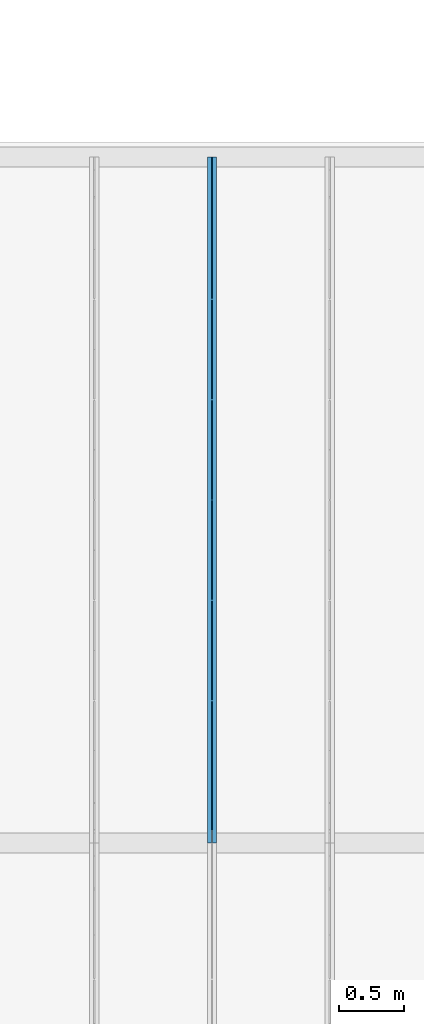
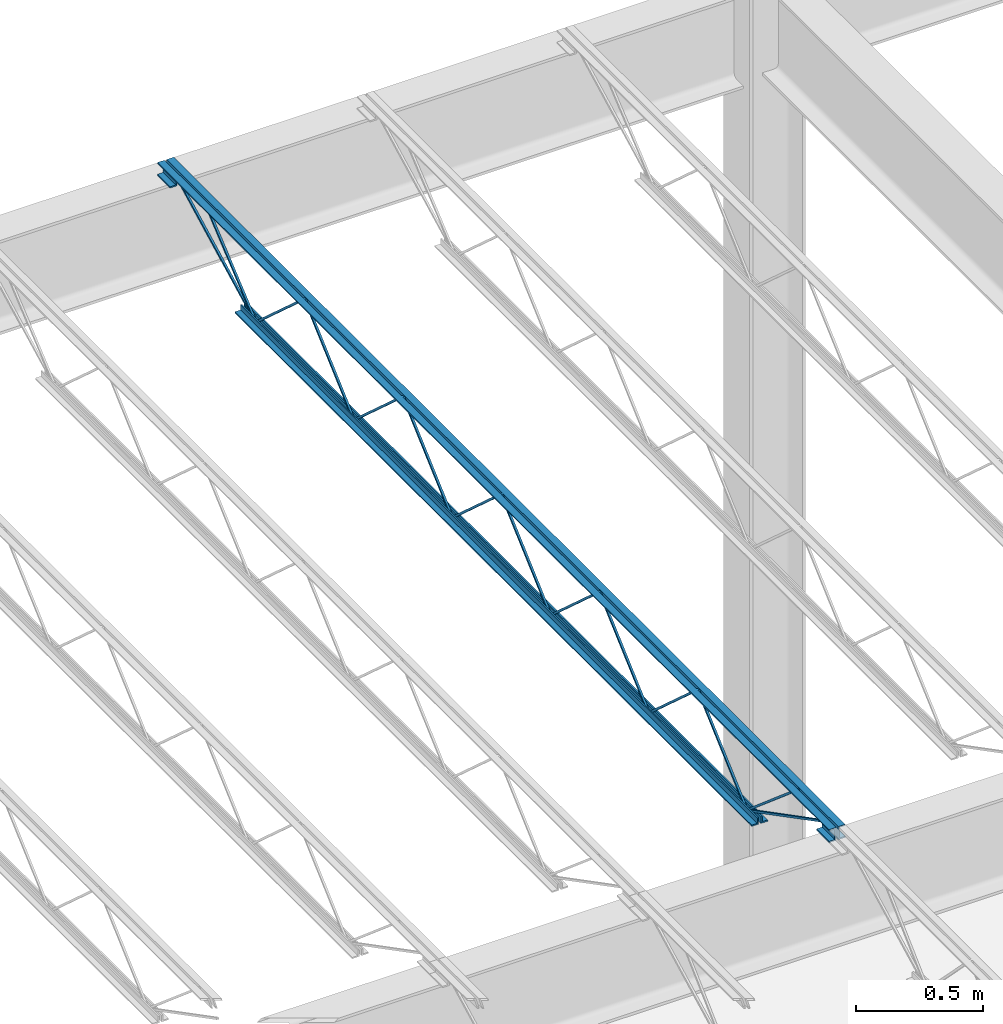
# One storey, part 98 of 119: 1 beam.
"""IFC2X3 building model written with IfcOpenShell, lengths in metres."""

import ifcopenshell
import ifcopenshell.guid

model = None  # the IFC model being written
_history = None  # IfcOwnerHistory: only IFC2X3 demands one
_inside = {}  # id of a spatial element -> (the spatial element, [elements in it])
_under = {}  # id of a project, library or spatial element -> (it, [spatial elements below it])
_declared = {}  # id of a project -> (the project, [libraries it declares])
_typed = {}  # id of a type object -> (the type object, [elements of that type])
_made_of = {}  # id of a material, layer set ... -> (it, [elements and type objects made of it])


def new_model(schema):
    """Start an empty IFC model of exactly this schema.

    Asked for "IFC4X3", IfcOpenShell would pick the latest addendum, in which some entities
    have other attributes; the version numbers below select the first issue.
    IFC2X3 requires an IfcOwnerHistory on every rooted entity: one is made here for all.
    """
    global model, _history
    if schema == "IFC4X3":
        model = ifcopenshell.file(schema_version=(4, 3, 0, 0))
    else:
        model = ifcopenshell.file(schema=schema)
    _inside.clear()
    _under.clear()
    _declared.clear()
    _typed.clear()
    _made_of.clear()
    _history = None
    if model.schema == "IFC2X3":
        org = make("IfcOrganization", Name="unknown")
        user = make(
            "IfcPersonAndOrganization",
            ThePerson=make("IfcPerson", FamilyName="unknown"),
            TheOrganization=org,
        )
        app = make(
            "IfcApplication",
            ApplicationDeveloper=org,
            Version="unknown",
            ApplicationFullName="unknown",
            ApplicationIdentifier="unknown",
        )
        _history = make(
            "IfcOwnerHistory",
            OwningUser=user,
            OwningApplication=app,
            ChangeAction="ADDED",
            CreationDate=0,
        )
    return model


def make(cls, **values):
    """One entity of the class cls with the attributes given. An attribute that is None is left unset."""
    return model.create_entity(
        cls, **{name: value for name, value in values.items() if value is not None}
    )


def entity(cls, *values):
    """Any entity or typed value of the class cls, its attributes in the order of the schema. None: left unset."""
    e = model.create_entity(cls)
    for i, value in enumerate(values):
        if value is not None:
            e[i] = value
    return e


def rooted(cls, **values):
    """An entity with a GlobalId (a new one), such as an element, a storey or a relation."""
    return make(cls, GlobalId=ifcopenshell.guid.new(), OwnerHistory=_history, **values)


def si_unit(unit_type, name, prefix=None):
    """IfcSIUnit, for example si_unit("LENGTHUNIT", "METRE", prefix="MILLI")."""
    return make("IfcSIUnit", UnitType=unit_type, Prefix=prefix, Name=name)


def converted_unit(unit_type, name, factor, base, dimensions=None, offset=None):
    """IfcConversionBasedUnit, such as the inch: factor (a typed value) times the base unit."""
    return make(
        "IfcConversionBasedUnit"
        if offset is None
        else "IfcConversionBasedUnitWithOffset",
        ConversionOffset=offset,
        Dimensions=None
        if dimensions is None
        else entity("IfcDimensionalExponents", *dimensions),
        UnitType=unit_type,
        Name=name,
        ConversionFactor=make(
            "IfcMeasureWithUnit", ValueComponent=factor, UnitComponent=base
        ),
    )


def assignment(units):
    """IfcUnitAssignment: the units of a project."""
    return None if units is None else make("IfcUnitAssignment", Units=units)


def point(xyz):
    """IfcCartesianPoint."""
    return None if xyz is None else make("IfcCartesianPoint", Coordinates=xyz)


def direction(xyz):
    """IfcDirection."""
    return None if xyz is None else make("IfcDirection", DirectionRatios=xyz)


def frame(location, z_axis=None, x_axis=None):
    """IfcAxis2Placement3D, a coordinate frame: its origin and axes. An axis left out is left unset."""
    return make(
        "IfcAxis2Placement3D",
        Location=point(location),
        Axis=direction(z_axis),
        RefDirection=direction(x_axis),
    )


def origin():
    """The frame at (0, 0, 0) with its axes left unset."""
    return frame((0.0, 0.0, 0.0))


def place(relative_to, where):
    """IfcLocalPlacement: puts the frame where relative to a parent placement (None: the world)."""
    return make(
        "IfcLocalPlacement", PlacementRelTo=relative_to, RelativePlacement=where
    )


def context(
    kind, dimensions, precision=None, world=None, true_north=None, identifier=None
):
    """IfcGeometricRepresentationContext, for example the 3D "Model" context."""
    return make(
        "IfcGeometricRepresentationContext",
        ContextIdentifier=identifier,
        ContextType=kind,
        CoordinateSpaceDimension=dimensions,
        Precision=precision,
        WorldCoordinateSystem=world,
        TrueNorth=true_north,
    )


def project(units=None, contexts=None):
    """IfcProject with its units and contexts."""
    return rooted(
        "IfcProject",
        Name="project",
        RepresentationContexts=contexts,
        UnitsInContext=assignment(units),
    )


def spatial(cls, under=None, at=None, **own):
    """A site, building, storey or space (cls), placed at a placement, below another one or the project."""
    s = rooted(cls, ObjectPlacement=at, **own)
    if under is not None:
        _under.setdefault(under.id(), (under, []))[1].append(s)
    return s


def faces_of(points, faces, orient=None, outer=None):
    """IfcFace entities. A face is a list of loops; a loop is a list of indices into points, from 0.

    orient and outer hold one flag for each loop. By default every Orientation is true, the
    first loop of a face is its IfcFaceOuterBound and the others are IfcFaceBound.
    """
    made = []
    for i, loops in enumerate(faces):
        bounds = []
        for j, loop in enumerate(loops):
            is_outer = j == 0 if outer is None else outer[i][j]
            bounds.append(
                make(
                    "IfcFaceOuterBound" if is_outer else "IfcFaceBound",
                    Bound=make("IfcPolyLoop", Polygon=[points[k] for k in loop]),
                    Orientation=True if orient is None else orient[i][j],
                )
            )
        made.append(make("IfcFace", Bounds=bounds))
    return made


def face_set(faces, orient=None, outer=None):
    """The faces of one IfcConnectedFaceSet. surface_model builds it on its shared points."""
    return ("IfcConnectedFaceSet", faces, orient, outer)


def surface_model(cls, points, shells):
    """IfcFaceBasedSurfaceModel or IfcShellBasedSurfaceModel (cls): surfaces that need not close."""
    shared = [point(p) for p in points]
    made = [make(c, CfsFaces=faces_of(shared, fs, o, b)) for c, fs, o, b in shells]
    if cls == "IfcFaceBasedSurfaceModel":
        return make(cls, FbsmFaces=made)
    return make(cls, SbsmBoundary=made)


def shape(context_of_items, identifier, shape_type, items):
    """IfcShapeRepresentation: the items that make up one representation, for example the "Body"."""
    return make(
        "IfcShapeRepresentation",
        ContextOfItems=context_of_items,
        RepresentationIdentifier=identifier,
        RepresentationType=shape_type,
        Items=items,
    )


def made_of(thing, what):
    """Note that an element or type object is made of a material, layer set ...; save() writes the relation."""
    if what is not None:
        _made_of.setdefault(what.id(), (what, []))[1].append(thing)
    return thing


def element(
    cls,
    number,
    at=None,
    inside=None,
    cuts=None,
    type_object=None,
    material=None,
    context=None,
    identifier="Body",
    shape_type=None,
    held_by="IfcProductDefinitionShape",
    body=None,
    shapes=None,
    **own,
):
    """One element of the class cls, such as IfcWall. Its Tag is "e" and its number.

    at: its placement. inside: the storey or other place that contains it. cuts: it is an
    opening in that element (IfcRelVoidsElement). A single representation is given by context,
    identifier, shape_type and body (its items); several are given by shapes. held_by: the class
    of the entity that holds the representations. save() writes the other relations.
    """
    e = rooted(cls, Tag="e%d" % number, ObjectPlacement=at, **own)
    if body is not None:
        shapes = [shape(context, identifier, shape_type, body)]
    if shapes is not None:
        e.Representation = make(held_by, Representations=shapes)
    if inside is not None:
        _inside.setdefault(inside.id(), (inside, []))[1].append(e)
    if cuts is not None:
        rooted(
            "IfcRelVoidsElement", RelatingBuildingElement=cuts, RelatedOpeningElement=e
        )
    if type_object is not None:
        _typed.setdefault(type_object.id(), (type_object, []))[1].append(e)
    return made_of(e, material)


def aggregate(whole, parts):
    """IfcRelAggregates: a whole, such as a stair, and the parts it consists of."""
    return rooted("IfcRelAggregates", RelatingObject=whole, RelatedObjects=parts)


def save(model, path):
    """Write the relations noted so far, then the file.

    IfcRelAggregates (storeys below a building ...), IfcRelContainedInSpatialStructure (elements
    in a storey), IfcRelDefinesByType, IfcRelAssociatesMaterial and IfcRelDeclares: one each for
    every whole, place, type object, material and project.
    """
    for whole, parts in _under.values():
        aggregate(whole, parts)
    for where, things in _inside.values():
        rooted(
            "IfcRelContainedInSpatialStructure",
            RelatedElements=things,
            RelatingStructure=where,
        )
    for kind, things in _typed.values():
        rooted("IfcRelDefinesByType", RelatedObjects=things, RelatingType=kind)
    for what, things in _made_of.values():
        rooted("IfcRelAssociatesMaterial", RelatedObjects=things, RelatingMaterial=what)
    for by, libraries in _declared.values():
        rooted("IfcRelDeclares", RelatingContext=by, RelatedDefinitions=libraries)
    model.write(path)


model = new_model("IFC2X3")

# Units and contexts
model_context = context("Model", 3, precision=1e-09, world=origin())
plan_context = context("Plan", 3, precision=1e-09, world=origin())
ifc_project = project(units=[si_unit("LENGTHUNIT", "METRE"), si_unit("AREAUNIT", "SQUARE_METRE"), si_unit("VOLUMEUNIT", "CUBIC_METRE"), converted_unit("PLANEANGLEUNIT", "DEGREE", entity("IfcRatioMeasure", 0.01745329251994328), si_unit("PLANEANGLEUNIT", "RADIAN"), dimensions=[0, 0, 0, 0, 0, 0, 0]), si_unit("TIMEUNIT", "SECOND")], contexts=[model_context, plan_context])

# Site, building, storey
site_placement = place(None, origin())
site = spatial("IfcSite", under=ifc_project, at=site_placement, Name="Default", CompositionType="ELEMENT")
building_placement = place(site_placement, origin())
building = spatial("IfcBuilding", under=site, at=building_placement, CompositionType="ELEMENT")
storey_placement = place(building_placement, frame((0.0, 0.0, 4.570000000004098)))
storey = spatial("IfcBuildingStorey", under=building, at=storey_placement, Name="Second Floor", CompositionType="ELEMENT", Elevation=4.570000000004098)

# Beam
beam_placement = place(storey_placement, frame((-22.8310357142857, 44.78049999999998, 4.323999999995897), z_axis=(0.0, 0.0, 1.0), x_axis=(-1.0, 0.0, 0.0)))
element("IfcBeam", 1, at=beam_placement, inside=storey, Name="M_K-Series Bar Joist-Rod Web:14K1:14K1", ObjectType="M_K-Series Bar Joist-Rod Web:14K1", context=model_context, shape_type="SurfaceModel", body=[
    surface_model("IfcFaceBasedSurfaceModel", [(-0.0320000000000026, -2.266000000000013, 0.01110000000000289), (-0.04150000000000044, -2.266000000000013, 0.01110000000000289), (-0.04150000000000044, -2.266000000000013, 0.001600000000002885), (-0.0320000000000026, -2.266000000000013, 0.001600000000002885), (-0.04150000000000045, -2.264645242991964, 0.01110000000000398), (-0.0320000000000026, -2.264645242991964, 0.01110000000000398), (-0.04150000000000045, -2.26100475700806, 0.001600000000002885), (-0.04150000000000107, -1.878854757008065, 0.3449000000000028), (-0.04150000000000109, -1.876145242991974, 0.3449000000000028), (-0.0415000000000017, -1.493995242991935, 0.001600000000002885), (-0.04150000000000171, -1.489000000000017, 0.001600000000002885), (-0.04150000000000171, -1.489000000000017, 0.01110000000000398), (-0.04150000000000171, -1.490354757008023, 0.01110000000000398), (-0.04150000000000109, -1.872504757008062, 0.3544000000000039), (-0.04150000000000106, -1.882495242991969, 0.3544000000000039), (-0.03199999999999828, -2.26100475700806, 0.001600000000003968), (-0.03200000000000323, -1.878854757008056, 0.3449000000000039), (-0.03200000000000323, -1.876145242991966, 0.3449000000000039), (-0.03200000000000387, -1.493995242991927, 0.001600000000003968), (-0.03200000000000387, -1.489000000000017, 0.001600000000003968), (-0.03200000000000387, -1.489000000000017, 0.01110000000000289), (-0.03200000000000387, -1.490354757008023, 0.01110000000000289), (-0.03200000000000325, -1.872504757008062, 0.3544000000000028), (-0.03200000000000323, -1.882495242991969, 0.3544000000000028), (-0.03200000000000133, -3.04300000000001, 0.01110000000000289), (-0.04149999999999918, -3.04300000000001, 0.01110000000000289), (-0.04149999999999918, -3.04300000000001, 0.001600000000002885), (-0.03200000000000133, -3.04300000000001, 0.001600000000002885), (-0.04149999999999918, -3.041645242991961, 0.01110000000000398), (-0.03200000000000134, -3.041645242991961, 0.01110000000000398), (-0.04149999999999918, -3.038004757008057, 0.001600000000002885), (-0.0414999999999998, -2.655854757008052, 0.3449000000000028), (-0.04149999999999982, -2.653145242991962, 0.3449000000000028), (-0.04150000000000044, -2.270995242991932, 0.001600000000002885), (-0.04150000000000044, -2.266000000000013, 0.01110000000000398), (-0.04150000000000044, -2.26735475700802, 0.01110000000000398), (-0.04149999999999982, -2.649504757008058, 0.3544000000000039), (-0.0414999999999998, -2.659495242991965, 0.3544000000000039), (-0.03199999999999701, -3.038004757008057, 0.001600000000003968), (-0.03200000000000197, -2.655854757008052, 0.3449000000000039), (-0.03200000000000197, -2.653145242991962, 0.3449000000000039), (-0.0320000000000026, -2.270995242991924, 0.001600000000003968), (-0.0320000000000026, -2.266000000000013, 0.001600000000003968), (-0.0320000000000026, -2.26735475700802, 0.01110000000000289), (-0.03200000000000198, -2.649504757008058, 0.3544000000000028), (-0.03200000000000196, -2.659495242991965, 0.3544000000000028), (-0.03200000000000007, -3.820000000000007, 0.01110000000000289), (-0.04149999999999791, -3.820000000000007, 0.01110000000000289), (-0.04149999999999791, -3.820000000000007, 0.001600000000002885), (-0.03200000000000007, -3.820000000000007, 0.001600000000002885), (-0.04149999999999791, -3.818645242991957, 0.01110000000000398), (-0.03200000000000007, -3.818645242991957, 0.01110000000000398), (-0.04149999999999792, -3.815004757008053, 0.001600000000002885), (-0.04149999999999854, -3.432854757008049, 0.3449000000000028), (-0.04149999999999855, -3.430145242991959, 0.3449000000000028), (-0.04149999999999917, -3.04799524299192, 0.001600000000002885), (-0.04149999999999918, -3.043000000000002, 0.001600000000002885), (-0.04149999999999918, -3.04300000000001, 0.01110000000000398), (-0.04149999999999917, -3.044354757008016, 0.01110000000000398), (-0.04149999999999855, -3.426504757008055, 0.3544000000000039), (-0.04149999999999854, -3.436495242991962, 0.3544000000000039), (-0.03199999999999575, -3.815004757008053, 0.001600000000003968), (-0.0320000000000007, -3.432854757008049, 0.3449000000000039), (-0.0320000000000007, -3.430145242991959, 0.3449000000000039), (-0.03200000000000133, -3.04799524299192, 0.001600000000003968), (-0.03200000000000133, -3.04300000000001, 0.001600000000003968), (-0.03200000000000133, -3.043000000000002, 0.01110000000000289), (-0.03200000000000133, -3.044354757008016, 0.01110000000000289), (-0.03200000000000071, -3.426504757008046, 0.3544000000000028), (-0.0320000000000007, -3.436495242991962, 0.3544000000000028), (-0.0320000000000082, -1.489000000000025, 0.01109999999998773), (-0.04150000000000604, -1.489000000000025, 0.01109999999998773), (-0.04150000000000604, -1.489000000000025, 0.001599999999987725), (-0.0320000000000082, -1.489000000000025, 0.001599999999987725), (-0.04150000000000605, -1.487645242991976, 0.01109999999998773), (-0.0320000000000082, -1.487645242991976, 0.01109999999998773), (-0.04150000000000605, -1.484004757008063, 0.001599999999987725), (-0.04150000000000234, -1.101854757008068, 0.3448999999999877), (-0.04150000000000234, -1.099145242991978, 0.3448999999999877), (-0.04150000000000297, -0.7169952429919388, 0.001599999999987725), (-0.04150000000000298, -0.7120000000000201, 0.001599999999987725), (-0.04150000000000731, -0.7120000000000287, 0.01109999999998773), (-0.04150000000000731, -0.7133547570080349, 0.01109999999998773), (-0.04150000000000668, -1.095504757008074, 0.3543999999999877), (-0.04150000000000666, -1.10549524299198, 0.3543999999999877), (-0.03200000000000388, -1.484004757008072, 0.001599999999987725), (-0.03200000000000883, -1.101854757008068, 0.3448999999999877), (-0.03200000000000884, -1.099145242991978, 0.3448999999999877), (-0.03200000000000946, -0.7169952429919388, 0.001599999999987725), (-0.03200000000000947, -0.7120000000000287, 0.001599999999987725), (-0.03200000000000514, -0.7120000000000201, 0.01109999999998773), (-0.03200000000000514, -0.7133547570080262, 0.01109999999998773), (-0.03200000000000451, -1.095504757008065, 0.3543999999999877), (-0.0320000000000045, -1.105495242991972, 0.3543999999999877), (-0.03200000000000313, -4.597000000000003, 0.01110000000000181), (-0.04150000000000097, -4.597000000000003, 0.01110000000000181), (-0.04150000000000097, -4.597000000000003, 0.001600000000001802), (-0.03200000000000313, -4.597000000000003, 0.001600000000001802), (-0.04150000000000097, -4.595645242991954, 0.01110000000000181), (-0.03200000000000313, -4.595645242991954, 0.01110000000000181), (-0.04150000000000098, -4.592004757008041, 0.001600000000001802), (-0.04150000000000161, -4.209854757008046, 0.3449000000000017), (-0.04150000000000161, -4.207145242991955, 0.3449000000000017), (-0.0414999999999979, -3.824995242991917, 0.001600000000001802), (-0.04149999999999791, -3.819999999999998, 0.001600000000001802), (-0.04150000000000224, -3.820000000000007, 0.01110000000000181), (-0.04150000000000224, -3.821354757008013, 0.01110000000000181), (-0.04150000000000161, -4.203504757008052, 0.3544000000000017), (-0.0415000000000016, -4.213495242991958, 0.3544000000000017), (-0.03199999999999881, -4.592004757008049, 0.001600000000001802), (-0.03200000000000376, -4.209854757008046, 0.3449000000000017), (-0.03200000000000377, -4.207145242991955, 0.3449000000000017), (-0.03200000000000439, -3.824995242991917, 0.001600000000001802), (-0.0320000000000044, -3.820000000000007, 0.001600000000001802), (-0.03200000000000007, -3.819999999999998, 0.01110000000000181), (-0.03200000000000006, -3.821354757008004, 0.01110000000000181), (-0.03200000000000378, -4.203504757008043, 0.3544000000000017), (-0.03200000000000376, -4.213495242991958, 0.3544000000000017), (-0.0414999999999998, 0.0, 0.3559999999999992), (-0.07350000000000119, 0.0, 0.3559999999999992), (-0.07350000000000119, 0.0, 0.3494999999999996), (-0.04799999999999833, 0.0, 0.3494999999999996), (-0.04799999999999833, 0.0, 0.3239999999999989), (-0.0414999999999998, 0.0, 0.3239999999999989), (-0.03200000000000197, 0.0, 0.3559999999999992), (-0.03200000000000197, 0.0, 0.3239999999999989), (-0.02549999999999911, 0.0, 0.3239999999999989), (-0.02549999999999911, 0.0, 0.3494999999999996), (0.0, 0.0, 0.3494999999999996), (0.0, 0.0, 0.3559999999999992), (-0.04149999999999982, -5.309000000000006, 0.3559999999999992), (-0.0735000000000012, -5.309000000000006, 0.3559999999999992), (-0.0735000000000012, -5.309000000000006, 0.3494999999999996), (-0.04799999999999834, -5.309000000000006, 0.3494999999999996), (-0.04799999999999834, -5.309000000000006, 0.3239999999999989), (-0.04149999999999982, -5.309000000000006, 0.3239999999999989), (-0.03200000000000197, -5.309000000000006, 0.3559999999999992), (-0.03200000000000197, -5.309000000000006, 0.3239999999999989), (-0.02549999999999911, -5.309000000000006, 0.3239999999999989), (-0.02549999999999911, -5.309000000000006, 0.3494999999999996), (0.0, -5.309000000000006, 0.3494999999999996), (0.0, -5.309000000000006, 0.3559999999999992), (-0.03200000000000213, -5.20900000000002, 0.2924999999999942), (0.0, -5.20900000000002, 0.2924999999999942), (0.0, -5.20900000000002, 0.2989999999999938), (-0.02550000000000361, -5.20900000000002, 0.2989999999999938), (-0.02550000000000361, -5.20900000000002, 0.3239999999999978), (-0.03200000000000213, -5.20900000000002, 0.3239999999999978), (-0.07350000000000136, -5.20900000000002, 0.2924999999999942), (-0.04149999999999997, -5.20900000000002, 0.2924999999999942), (-0.04149999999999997, -5.20900000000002, 0.3239999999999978), (-0.04800000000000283, -5.20900000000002, 0.3239999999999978), (-0.04800000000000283, -5.20900000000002, 0.2989999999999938), (-0.07350000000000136, -5.20900000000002, 0.2989999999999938), (-0.03200000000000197, -5.309000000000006, 0.2924999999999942), (0.0, -5.309000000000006, 0.2924999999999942), (0.0, -5.309000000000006, 0.2989999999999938), (-0.02550000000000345, -5.309000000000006, 0.2989999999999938), (-0.02550000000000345, -5.309000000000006, 0.3239999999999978), (-0.03200000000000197, -5.309000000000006, 0.3239999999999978), (-0.0735000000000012, -5.309000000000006, 0.2924999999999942), (-0.04149999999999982, -5.309000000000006, 0.2924999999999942), (-0.04149999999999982, -5.309000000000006, 0.3239999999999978), (-0.04800000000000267, -5.309000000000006, 0.3239999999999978), (-0.04800000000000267, -5.309000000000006, 0.2989999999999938), (-0.0735000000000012, -5.309000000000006, 0.2989999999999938), (-0.0414999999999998, 0.0, 0.2924999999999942), (-0.0414999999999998, 0.0, 0.3239999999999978), (-0.04800000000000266, 0.0, 0.3239999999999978), (-0.04800000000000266, 0.0, 0.2989999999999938), (-0.07350000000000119, 0.0, 0.2989999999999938), (-0.07350000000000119, 0.0, 0.2924999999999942), (-0.03200000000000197, 0.0, 0.2924999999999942), (0.0, 0.0, 0.2924999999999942), (0.0, 0.0, 0.2989999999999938), (-0.02550000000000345, 0.0, 0.2989999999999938), (-0.02550000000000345, 0.0, 0.3239999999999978), (-0.03200000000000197, 0.0, 0.3239999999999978), (-0.04149999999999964, -0.1000000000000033, 0.2924999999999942), (-0.04149999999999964, -0.1000000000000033, 0.3239999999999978), (-0.0480000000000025, -0.1000000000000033, 0.3239999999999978), (-0.0480000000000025, -0.1000000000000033, 0.2989999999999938), (-0.07350000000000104, -0.1000000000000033, 0.2989999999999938), (-0.07350000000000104, -0.1000000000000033, 0.2924999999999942), (-0.03200000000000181, -0.1000000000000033, 0.2924999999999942), (0.0, -0.1000000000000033, 0.2924999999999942), (0.0, -0.1000000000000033, 0.2989999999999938), (-0.02550000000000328, -0.1000000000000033, 0.2989999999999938), (-0.02550000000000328, -0.1000000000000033, 0.3239999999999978), (-0.03200000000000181, -0.1000000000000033, 0.3239999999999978), (-0.04149999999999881, -0.6119999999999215, 0.0), (-0.04149999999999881, -0.6119999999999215, 0.03199999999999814), (-0.04799999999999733, -0.6119999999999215, 0.03199999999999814), (-0.04799999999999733, -0.6119999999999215, 0.006499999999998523), (-0.07350000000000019, -0.6119999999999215, 0.006499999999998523), (-0.07350000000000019, -0.6119999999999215, 0.0), (-0.03200000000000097, -0.6119999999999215, 0.0), (0.0, -0.6119999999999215, 0.0), (0.0, -0.6119999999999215, 0.006499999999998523), (-0.02549999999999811, -0.6119999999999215, 0.006499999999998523), (-0.02549999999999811, -0.6119999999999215, 0.03199999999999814), (-0.03200000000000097, -0.6119999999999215, 0.03199999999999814), (-0.04150000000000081, -4.696999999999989, 0.0), (-0.04150000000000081, -4.696999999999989, 0.03199999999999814), (-0.04799999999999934, -4.696999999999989, 0.03199999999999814), (-0.04799999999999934, -4.696999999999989, 0.006499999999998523), (-0.0735000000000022, -4.696999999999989, 0.006499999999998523), (-0.0735000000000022, -4.696999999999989, 0.0), (-0.03200000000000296, -4.696999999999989, 0.0), (0.0, -4.696999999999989, 0.0), (0.0, -4.696999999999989, 0.006499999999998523), (-0.02550000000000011, -4.696999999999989, 0.006499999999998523), (-0.02550000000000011, -4.696999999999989, 0.03199999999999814), (-0.03200000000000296, -4.696999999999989, 0.03199999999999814), (-0.03200000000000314, -4.594811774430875, 0.01056594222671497), (-0.04150000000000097, -4.594811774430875, 0.01056594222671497), (-0.04150000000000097, -4.599188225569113, 0.00213405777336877), (-0.03200000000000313, -4.599188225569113, 0.00213405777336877), (-0.03200000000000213, -5.207840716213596, 0.3287499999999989), (-0.03200000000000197, -5.308999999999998, 0.3287499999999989), (-0.03200000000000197, -5.308999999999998, 0.3192499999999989), (-0.03200000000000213, -5.210159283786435, 0.3192499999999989), (-0.0415000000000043, -5.210159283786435, 0.3192499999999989), (-0.04149999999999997, -5.207840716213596, 0.3287499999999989), (-0.04149999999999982, -5.308999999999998, 0.3287499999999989), (-0.04149999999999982, -5.309000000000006, 0.3192499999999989), (-0.03200000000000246, -5.005457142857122, 0.3417000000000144), (-0.0415000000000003, -5.005457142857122, 0.3417000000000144), (-0.0415000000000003, -5.005457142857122, 0.3322000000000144), (-0.03200000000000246, -5.005457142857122, 0.3322000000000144), (-0.04150000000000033, -4.991034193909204, 0.3417000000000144), (-0.03200000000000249, -4.991034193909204, 0.3417000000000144), (-0.04150000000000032, -4.994480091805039, 0.3322000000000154), (-0.04150000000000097, -4.600045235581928, 0.002704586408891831), (-0.04150000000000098, -4.593954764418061, 0.009995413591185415), (-0.03199999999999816, -4.994480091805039, 0.3322000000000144), (-0.03200000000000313, -4.600045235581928, 0.002704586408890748), (-0.03200000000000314, -4.593954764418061, 0.009995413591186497), (-0.03200000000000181, -0.09781177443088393, 0.3197840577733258), (-0.03200000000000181, -0.1021882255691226, 0.328215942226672), (-0.04149999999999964, -0.1021882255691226, 0.328215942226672), (-0.04149999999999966, -0.09781177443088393, 0.3197840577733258), (-0.03200000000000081, -0.7098117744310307, 0.002134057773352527), (-0.0320000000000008, -0.7141882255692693, 0.01056594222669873), (-0.04149999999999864, -0.7141882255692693, 0.01056594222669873), (-0.04149999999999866, -0.7098117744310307, 0.002134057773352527), (-0.03200000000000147, -0.3059055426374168, 0.3460340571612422), (-0.03200000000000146, -0.3120658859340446, 0.35326594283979), (-0.04149999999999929, -0.3120658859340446, 0.3532659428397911), (-0.04149999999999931, -0.3059055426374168, 0.3460340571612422), (-0.03200000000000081, -0.7089198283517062, 0.002734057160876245), (-0.0320000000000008, -0.7150801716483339, 0.00996594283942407), (-0.04149999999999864, -0.7150801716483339, 0.00996594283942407), (-0.04149999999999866, -0.7089198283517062, 0.002734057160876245)], [face_set([[[0, 1, 2, 3]], [[1, 4, 5, 0]], [[2, 6, 7, 8, 9, 10, 11, 12, 13, 14, 4, 1]], [[3, 2, 6, 15]], [[0, 3, 15, 16, 17, 18, 19, 20, 21, 22, 23, 5]], [[4, 5, 23, 14]], [[15, 16, 7, 6]], [[14, 13, 22, 23]], [[16, 7, 8, 17]], [[13, 12, 21, 22]], [[17, 8, 9, 18]], [[20, 11, 10, 19]], [[12, 11, 20, 21]], [[18, 9, 10, 19]]]), face_set([[[24, 25, 26, 27]], [[25, 28, 29, 24]], [[26, 30, 31, 32, 33, 2, 34, 35, 36, 37, 28, 25]], [[27, 26, 30, 38]], [[24, 27, 38, 39, 40, 41, 42, 0, 43, 44, 45, 29]], [[28, 29, 45, 37]], [[38, 39, 31, 30]], [[37, 36, 44, 45]], [[39, 31, 32, 40]], [[36, 35, 43, 44]], [[40, 32, 33, 41]], [[0, 34, 2, 42]], [[35, 34, 0, 43]], [[41, 33, 2, 42]]]), face_set([[[46, 47, 48, 49]], [[47, 50, 51, 46]], [[48, 52, 53, 54, 55, 56, 57, 58, 59, 60, 50, 47]], [[49, 48, 52, 61]], [[46, 49, 61, 62, 63, 64, 65, 66, 67, 68, 69, 51]], [[50, 51, 69, 60]], [[61, 62, 53, 52]], [[60, 59, 68, 69]], [[62, 53, 54, 63]], [[59, 58, 67, 68]], [[63, 54, 55, 64]], [[66, 57, 56, 65]], [[58, 57, 66, 67]], [[64, 55, 56, 65]]]), face_set([[[70, 71, 72, 73]], [[71, 74, 75, 70]], [[72, 76, 77, 78, 79, 80, 81, 82, 83, 84, 74, 71]], [[73, 72, 76, 85]], [[70, 73, 85, 86, 87, 88, 89, 90, 91, 92, 93, 75]], [[74, 75, 93, 84]], [[85, 86, 77, 76]], [[84, 83, 92, 93]], [[86, 77, 78, 87]], [[83, 82, 91, 92]], [[87, 78, 79, 88]], [[90, 81, 80, 89]], [[82, 81, 90, 91]], [[88, 79, 80, 89]]]), face_set([[[94, 95, 96, 97]], [[95, 98, 99, 94]], [[96, 100, 101, 102, 103, 104, 105, 106, 107, 108, 98, 95]], [[97, 96, 100, 109]], [[94, 97, 109, 110, 111, 112, 113, 114, 115, 116, 117, 99]], [[98, 99, 117, 108]], [[109, 110, 101, 100]], [[108, 107, 116, 117]], [[110, 101, 102, 111]], [[107, 106, 115, 116]], [[111, 102, 103, 112]], [[114, 105, 104, 113]], [[106, 105, 114, 115]], [[112, 103, 104, 113]]]), face_set([[[118, 119, 120, 121, 122, 123]], [[124, 125, 126, 127, 128, 129]], [[130, 131, 132, 133, 134, 135]], [[136, 137, 138, 139, 140, 141]], [[123, 118, 130, 135]], [[122, 123, 135, 134]], [[121, 133, 134, 122]], [[120, 121, 133, 132]], [[119, 131, 132, 120]], [[118, 130, 131, 119]], [[129, 141, 136, 124]], [[128, 129, 141, 140]], [[127, 128, 140, 139]], [[126, 127, 139, 138]], [[125, 126, 138, 137]], [[124, 136, 137, 125]]]), face_set([[[142, 143, 144, 145, 146, 147]], [[148, 149, 150, 151, 152, 153]], [[154, 155, 156, 157, 158, 159]], [[160, 161, 162, 163, 164, 165]], [[147, 159, 154, 142]], [[146, 158, 159, 147]], [[145, 146, 158, 157]], [[144, 156, 157, 145]], [[143, 144, 156, 155]], [[142, 143, 155, 154]], [[153, 165, 160, 148]], [[152, 164, 165, 153]], [[151, 163, 164, 152]], [[150, 162, 163, 151]], [[149, 150, 162, 161]], [[148, 149, 161, 160]]]), face_set([[[166, 167, 168, 169, 170, 171]], [[172, 173, 174, 175, 176, 177]], [[178, 179, 180, 181, 182, 183]], [[184, 185, 186, 187, 188, 189]], [[171, 166, 178, 183]], [[170, 182, 183, 171]], [[169, 181, 182, 170]], [[168, 180, 181, 169]], [[167, 179, 180, 168]], [[166, 167, 179, 178]], [[177, 189, 184, 172]], [[176, 188, 189, 177]], [[175, 176, 188, 187]], [[174, 186, 187, 175]], [[173, 174, 186, 185]], [[172, 173, 185, 184]]]), face_set([[[190, 191, 192, 193, 194, 195]], [[196, 197, 198, 199, 200, 201]], [[202, 203, 204, 205, 206, 207]], [[208, 209, 210, 211, 212, 213]], [[195, 190, 202, 207]], [[194, 206, 207, 195]], [[193, 205, 206, 194]], [[192, 204, 205, 193]], [[191, 203, 204, 192]], [[190, 191, 203, 202]], [[201, 213, 208, 196]], [[200, 212, 213, 201]], [[199, 200, 212, 211]], [[198, 210, 211, 199]], [[197, 198, 210, 209]], [[196, 197, 209, 208]]]), face_set([[[214, 215, 216, 217]], [[217, 214, 218, 219, 220, 221]], [[216, 217, 221, 222]], [[215, 223, 224, 225, 222, 216]], [[214, 218, 223, 215]], [[219, 224, 225, 220]], [[222, 221, 220, 225]], [[218, 219, 224, 223]]]), face_set([[[226, 227, 228, 229]], [[227, 230, 231, 226]], [[228, 232, 233, 234, 230, 227]], [[229, 228, 232, 235]], [[226, 229, 235, 236, 237, 231]], [[237, 234, 233, 236]], [[230, 234, 237, 231]], [[235, 232, 233, 236]]]), face_set([[[238, 239, 240, 241]], [[242, 243, 244, 245]], [[241, 245, 242, 238]], [[240, 244, 245, 241]], [[239, 240, 244, 243]], [[238, 239, 243, 242]]]), face_set([[[246, 247, 248, 249]], [[250, 251, 252, 253]], [[249, 253, 250, 246]], [[248, 252, 253, 249]], [[247, 248, 252, 251]], [[246, 247, 251, 250]]])]),
])

save(model, "model.ifc")
